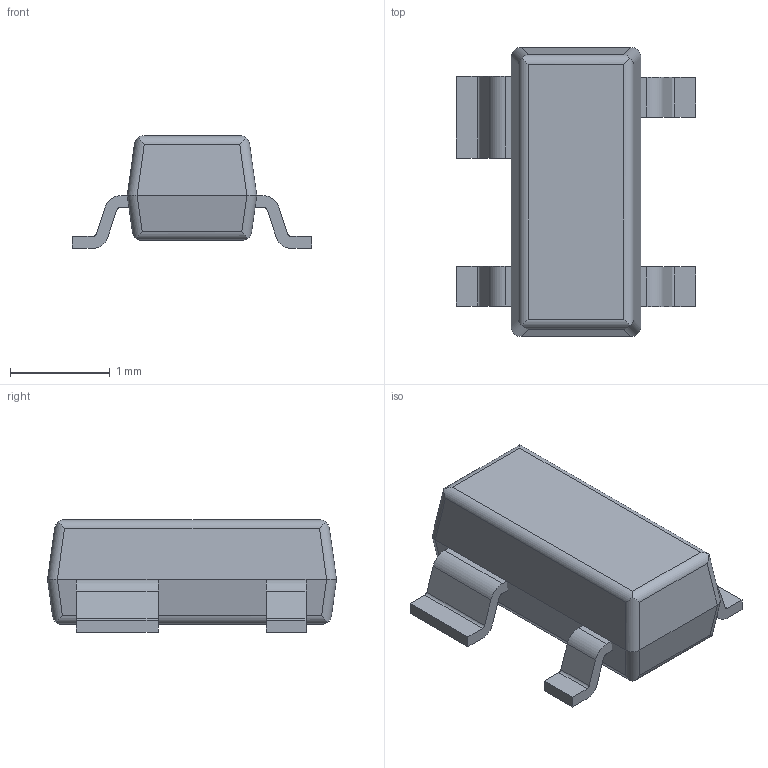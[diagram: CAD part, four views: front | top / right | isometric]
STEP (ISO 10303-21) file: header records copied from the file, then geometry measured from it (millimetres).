
FILE_DESCRIPTION (( 'STEP AP203' ), '1' );
FILE_NAME ('3D SOT-143.STEP', '2023-07-10T06:06:11', ( '' ), ( '' ), 'SwSTEP 2.0', 'SolidWorks 2022', '' );
FILE_SCHEMA (( 'CONFIG_CONTROL_DESIGN' ));
Length unit declared in the file: millimetre
Products named in the file (1): 3D SOT-143
Bounding box: 2.4 x 2.9 x 1.13 mm (x, y, z)
Volume: 3.9 mm3; surface area: 20.3 mm2
Topology: 5 solids, 5 shells, 82 faces, 208 edges, 136 vertices
Faces by surface type: plane 50, cylinder 32
Entity records: 2509 total; most frequent: CARTESIAN_POINT 511, ORIENTED_EDGE 416, DIRECTION 378, EDGE_CURVE 208, LINE 148, VECTOR 148, VERTEX_POINT 136, AXIS2_PLACEMENT_3D 115
